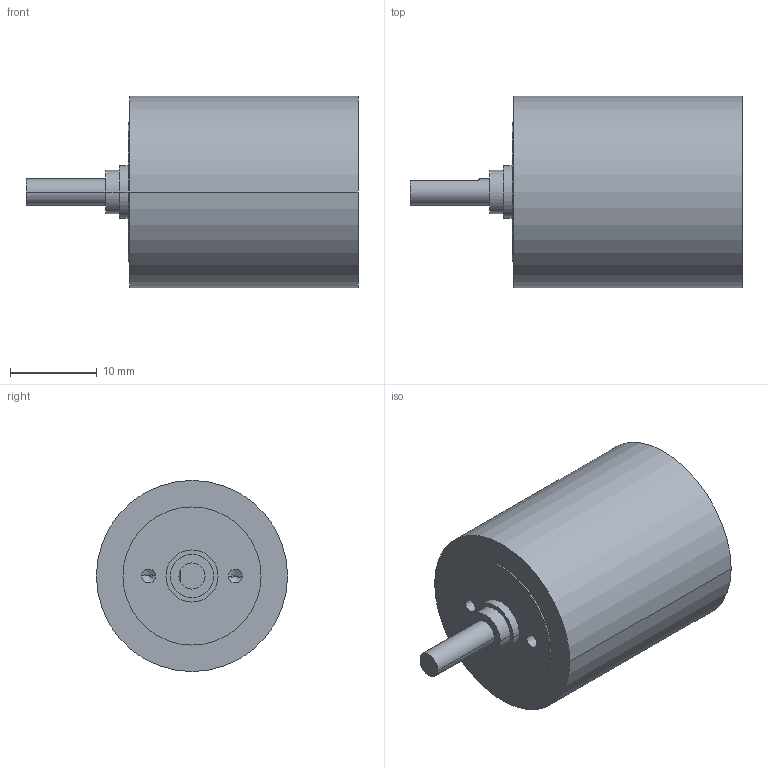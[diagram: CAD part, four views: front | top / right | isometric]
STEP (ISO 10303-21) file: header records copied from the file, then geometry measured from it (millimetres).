
FILE_DESCRIPTION((''),'2;1');
FILE_NAME('1118170','2010-02-04T',('MMAGMIBU'),(''),'PRO/ENGINEER BY PARAMETRIC TECHNOLOGY CORPORATION, 2009230','PRO/ENGINEER BY PARAMETRIC TECHNOLOGY CORPORATION, 2009230','');
FILE_SCHEMA(('CONFIG_CONTROL_DESIGN'));
Length unit declared in the file: millimetre
Products named in the file (1): 1118170
Bounding box: 38.2 x 22 x 22 mm (x, y, z)
Volume: 9366.7 mm3; surface area: 2901.1 mm2
Topology: 1 solids, 1 shells, 29 faces, 62 edges, 38 vertices
Faces by surface type: cylinder 16, plane 9, cone 4
Entity records: 807 total; most frequent: DIRECTION 146, CARTESIAN_POINT 130, ORIENTED_EDGE 116, AXIS2_PLACEMENT_3D 61, EDGE_CURVE 58, VERTEX_POINT 38, EDGE_LOOP 36, CIRCLE 32
